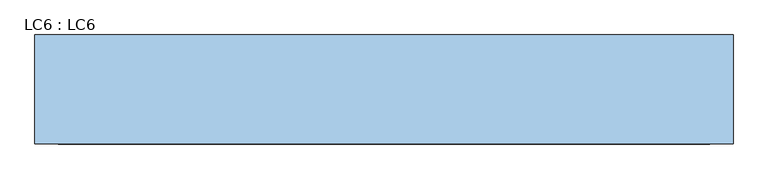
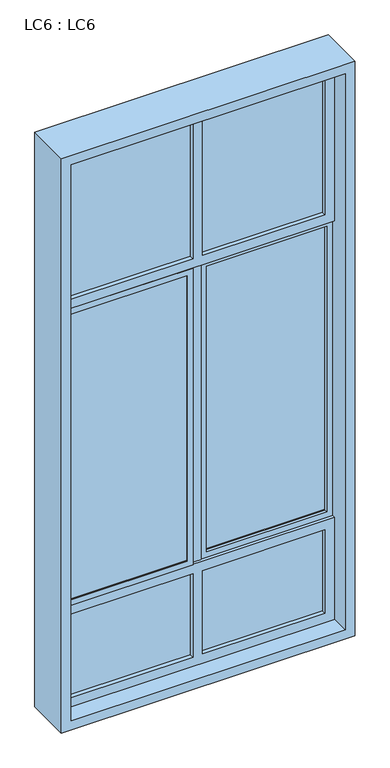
"""IFC4 building model written with IfcOpenShell, lengths in millimetres: window geometry, LC6 : LC6."""

from ifc_helpers import new_model, si_unit, frame, origin, place, context, project, spatial, polyline, outline, extrude, source, transform, mapped, element, save


def lc6_lc6_d9b30954(model_context):
    return source(origin(), model_context, "Body", "SweptSolid", [
        extrude(outline(polyline([(-25.0, -2.5), (-650.0, -2.5), (-650.0, 2.5), (-25.0, 2.5), (-25.0, -2.5)])), frame((0.0, 0.0, 2550.0), z_axis=(0.0, 0.0, 1.0), x_axis=(1.0, 0.0, 0.0)), (0.0, 0.0, 1.0), 750.0),
        extrude(outline(polyline([(650.0, -2.5), (25.0, -2.5), (25.0, 2.5), (650.0, 2.5), (650.0, -2.5)])), frame((0.0, 0.0, 2550.0), z_axis=(0.0, 0.0, 1.0), x_axis=(1.0, 0.0, 0.0)), (0.0, 0.0, 1.0), 750.0),
        extrude(outline(polyline([(-25.0, -2.5), (-650.0, -2.5), (-650.0, 2.5), (-25.0, 2.5), (-25.0, -2.5)])), frame((0.0, 0.0, 400.0), z_axis=(0.0, 0.0, 1.0), x_axis=(1.0, 0.0, 0.0)), (0.0, 0.0, 1.0), 450.0),
        extrude(outline(polyline([(650.0, -2.5), (25.0, -2.5), (25.0, 2.5), (650.0, 2.5), (650.0, -2.5)])), frame((0.0, 0.0, 400.0), z_axis=(0.0, 0.0, 1.0), x_axis=(1.0, 0.0, 0.0)), (0.0, 0.0, 1.0), 450.0),
        extrude(outline(polyline([(670.0, 15.0), (55.0, 15.0), (55.0, 20.0), (670.0, 20.0), (670.0, 15.0)])), frame((0.0, 0.0, 930.0), z_axis=(0.0, 0.0, 1.0), x_axis=(1.0, 0.0, 0.0)), (0.0, 0.0, 1.0), 1540.0),
        extrude(outline(polyline([(-55.0, -20.0), (-670.0, -20.0), (-670.0, -15.0), (-55.0, -15.0), (-55.0, -20.0)])), frame((0.0, 0.0, 930.0), z_axis=(0.0, 0.0, 1.0), x_axis=(1.0, 0.0, 0.0)), (0.0, 0.0, 1.0), 1540.0),
        extrude(outline(polyline([(2500.0, 700.0), (2500.0, 25.0), (900.0, 25.0), (900.0, 700.0), (2500.0, 700.0)]), holes=[polyline([(2470.0, 670.0), (930.0, 670.0), (930.0, 55.0), (2470.0, 55.0), (2470.0, 670.0)])]), frame((0.0, -7.0, 0.0), z_axis=(0.0, 1.0, 0.0), x_axis=(0.0, 0.0, 1.0)), (0.0, 0.0, 1.0), 15.0),
        extrude(outline(polyline([(2500.0, -25.0), (2500.0, -700.0), (900.0, -700.0), (900.0, -25.0), (2500.0, -25.0)]), holes=[polyline([(2470.0, -55.0), (930.0, -55.0), (930.0, -670.0), (2470.0, -670.0), (2470.0, -55.0)])]), frame((0.0, -27.0, 0.0), z_axis=(0.0, 1.0, 0.0), x_axis=(0.0, 0.0, 1.0)), (0.0, 0.0, 1.0), 2.0),
        extrude(outline(polyline([(25.0, -10.0), (-25.0, -10.0), (-25.0, 10.0), (25.0, 10.0), (25.0, -10.0)])), frame((0.0, 0.0, 900.0), z_axis=(0.0, 0.0, 1.0), x_axis=(1.0, 0.0, 0.0)), (0.0, 0.0, 1.0), 1600.0),
        extrude(outline(polyline([(3350.0, 700.0), (3350.0, -700.0), (2500.0, -700.0), (2500.0, 700.0), (3350.0, 700.0)]), holes=[polyline([(3300.0, -25.0), (2550.0, -25.0), (2550.0, -650.0), (3300.0, -650.0), (3300.0, -25.0)]), polyline([(3300.0, 650.0), (2550.0, 650.0), (2550.0, 25.0), (3300.0, 25.0), (3300.0, 650.0)])]), frame((0.0, -25.0, 0.0), z_axis=(0.0, 1.0, 0.0), x_axis=(0.0, 0.0, 1.0)), (0.0, 0.0, 1.0), 50.0),
        extrude(outline(polyline([(900.0, 700.0), (900.0, -700.0), (350.0, -700.0), (350.0, 700.0), (900.0, 700.0)]), holes=[polyline([(850.0, -25.0), (400.0, -25.0), (400.0, -650.0), (850.0, -650.0), (850.0, -25.0)]), polyline([(850.0, 650.0), (400.0, 650.0), (400.0, 25.0), (850.0, 25.0), (850.0, 650.0)])]), frame((0.0, -25.0, 0.0), z_axis=(0.0, 1.0, 0.0), x_axis=(0.0, 0.0, 1.0)), (0.0, 0.0, 1.0), 50.0),
        extrude(outline(polyline([(3400.0, 750.0), (3400.0, -750.0), (300.0, -750.0), (300.0, 750.0), (3400.0, 750.0)]), holes=[polyline([(3350.0, 700.0), (350.0, 700.0), (350.0, -700.0), (3350.0, -700.0), (3350.0, 700.0)])]), frame((0.0, -117.0, 0.0), z_axis=(0.0, 1.0, 0.0), x_axis=(0.0, 0.0, 1.0)), (0.0, 0.0, 1.0), 234.0),
    ])


if __name__ == "__main__":
    model = new_model("IFC4")
    model_context = context("Model", 3, world=origin())
    ifc_project = project(units=[si_unit("LENGTHUNIT", "METRE", prefix="MILLI")], contexts=[model_context])
    site = spatial("IfcSite", under=ifc_project)
    building = spatial("IfcBuilding", under=site)
    placement = place(None, origin())
    lc6_lc6_shape = lc6_lc6_d9b30954(model_context)
    element("IfcWindow", 1, ObjectType="LC6 : LC6", at=placement, inside=building, context=model_context, shape_type="MappedRepresentation", body=[
        mapped(lc6_lc6_shape, transform((0.0, 0.0, 0.0), x_axis=(1.0, 0.0, 0.0), y_axis=(0.0, 1.0, 0.0), z_axis=(0.0, 0.0, 1.0))),
    ])
    save(model, "model.ifc")
